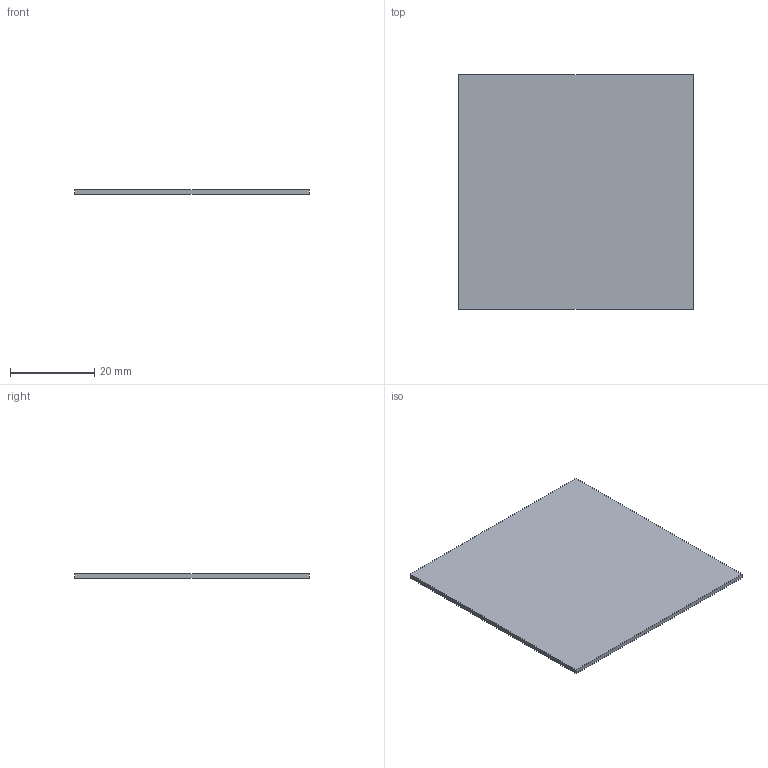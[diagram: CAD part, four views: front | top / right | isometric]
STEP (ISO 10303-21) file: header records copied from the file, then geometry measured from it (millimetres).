
FILE_DESCRIPTION(('Open CASCADE Model'),'2;1');
FILE_NAME('Open CASCADE Shape Model','2023-03-08T18:29:16',('Author'),( 'Open CASCADE'),'Open CASCADE STEP processor 7.5','Open CASCADE 7.5' ,'Unknown');
FILE_SCHEMA(('AUTOMOTIVE_DESIGN { 1 0 10303 214 1 1 1 1 }'));
Length unit declared in the file: millimetre
Products named in the file (3): PCB; Board; Open CASCADE STEP translator 7.5 3.1.1
Assembly tree (2 placements, depth 3):
  PCB
    Board
      Open CASCADE STEP translator 7.5 3.1.1
Bounding box: 55.88 x 55.88 x 1.09 mm (x, y, z)
Volume: 3403.7 mm3; surface area: 6488.8 mm2
Topology: 1 solids, 1 shells, 6 faces, 12 edges, 8 vertices
Faces by surface type: plane 6
Entity records: 213 total; most frequent: DIRECTION 30, CARTESIAN_POINT 29, ORIENTED_EDGE 24, EDGE_CURVE 12, LINE 12, VECTOR 12, AXIS2_PLACEMENT_3D 9, VERTEX_POINT 8
